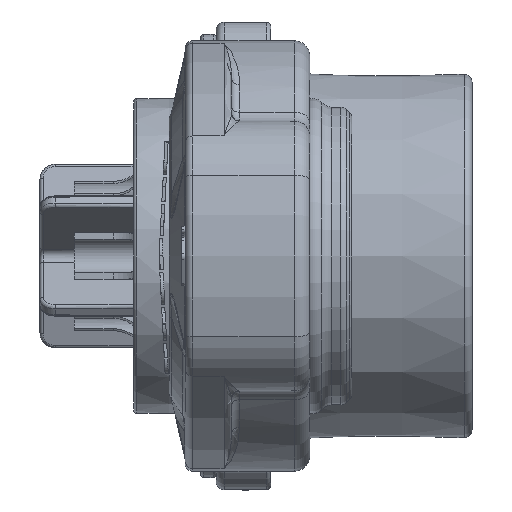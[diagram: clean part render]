
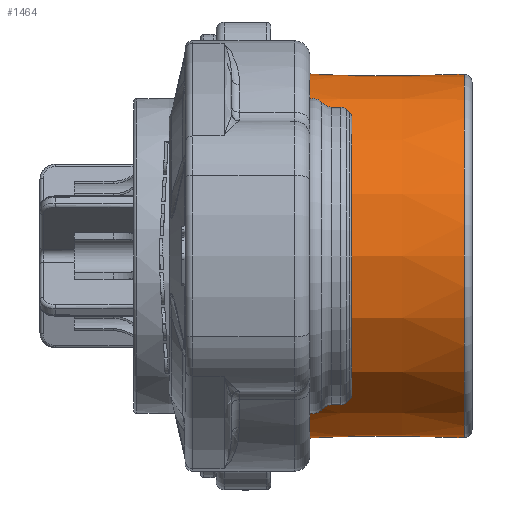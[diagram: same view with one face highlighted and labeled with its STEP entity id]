
A CAD part, front view. The second image highlights one B-rep face of the part: STEP entity #1464.
In plain terms, the highlighted conical face has half-angle 0.5 degrees and reference radius 11.65 mm.
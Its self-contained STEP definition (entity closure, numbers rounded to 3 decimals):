
#114 = VERTEX_POINT ( 'NONE', #26002 ) ;
#1464 = ADVANCED_FACE ( 'NONE', ( #56150 ), #37793, .T. ) ;
#3519 = EDGE_LOOP ( 'NONE', ( #25357, #16104, #9352, #6814 ) ) ;
#6814 = ORIENTED_EDGE ( 'NONE', *, *, #29945, .T. ) ;
#6815 = AXIS2_PLACEMENT_3D ( 'NONE', #15869, #30243, #34672 ) ;
#8466 = CARTESIAN_POINT ( 'NONE',  ( -8.135, 8.767, 7.78 ) ) ;
#9352 = ORIENTED_EDGE ( 'NONE', *, *, #20490, .T. ) ;
#13451 = CARTESIAN_POINT ( 'NONE',  ( -10.269, 8.776, 7.797 ) ) ;
#14601 = B_SPLINE_CURVE_WITH_KNOTS ( 'NONE', 3,
 ( #20731, #44533, #22191, #39258, #57183, #49227, #43953 ),
 .UNSPECIFIED., .F., .F.,
 ( 4, 3, 4 ),
 ( 0., 0.006, 0.012 ),
 .UNSPECIFIED. ) ;
#15869 = CARTESIAN_POINT ( 'NONE',  ( 0., 0., 0. ) ) ;
#16104 = ORIENTED_EDGE ( 'NONE', *, *, #28788, .T. ) ;
#17560 = CARTESIAN_POINT ( 'NONE',  ( -6., 8.757, 7.762 ) ) ;
#18138 = CARTESIAN_POINT ( 'NONE',  ( -0.496, 8.733, 7.718 ) ) ;
#19469 = DIRECTION ( 'NONE',  ( 0., 0., 1. ) ) ;
#20490 = EDGE_CURVE ( 'NONE', #25236, #38410, #14601, .T. ) ;
#20731 = CARTESIAN_POINT ( 'NONE',  ( -12.404, 8.786, -7.814 ) ) ;
#22191 = CARTESIAN_POINT ( 'NONE',  ( -8.735, 8.77, -7.785 ) ) ;
#23066 = CARTESIAN_POINT ( 'NONE',  ( -0.496, 0., 0. ) ) ;
#23597 = CARTESIAN_POINT ( 'NONE',  ( -12.404, 8.786, -7.814 ) ) ;
#25236 = VERTEX_POINT ( 'NONE', #23597 ) ;
#25357 = ORIENTED_EDGE ( 'NONE', *, *, #29507, .T. ) ;
#26002 = CARTESIAN_POINT ( 'NONE',  ( -0.496, 8.733, 7.718 ) ) ;
#28468 = CARTESIAN_POINT ( 'NONE',  ( -0.496, 8.733, -7.718 ) ) ;
#28788 = EDGE_CURVE ( 'NONE', #30839, #25236, #30471, .T. ) ;
#29507 = EDGE_CURVE ( 'NONE', #114, #30839, #36234, .T. ) ;
#29945 = EDGE_CURVE ( 'NONE', #38410, #114, #42778, .T. ) ;
#30243 = DIRECTION ( 'NONE',  ( -1., 0., 0. ) ) ;
#30471 = CIRCLE ( 'NONE', #35181, 11.758 ) ;
#30793 = CARTESIAN_POINT ( 'NONE',  ( -4.165, 8.749, 7.747 ) ) ;
#30839 = VERTEX_POINT ( 'NONE', #46334 ) ;
#31493 = AXIS2_PLACEMENT_3D ( 'NONE', #23066, #45425, #32780 ) ;
#31966 = CARTESIAN_POINT ( 'NONE',  ( -2.33, 8.741, 7.733 ) ) ;
#32780 = DIRECTION ( 'NONE',  ( 0., 0., -1. ) ) ;
#34672 = DIRECTION ( 'NONE',  ( 0., 0., 1. ) ) ;
#35181 = AXIS2_PLACEMENT_3D ( 'NONE', #55905, #46539, #19469 ) ;
#36234 = B_SPLINE_CURVE_WITH_KNOTS ( 'NONE', 3,
 ( #18138, #31966, #30793, #17560, #8466, #13451, #44911 ),
 .UNSPECIFIED., .F., .F.,
 ( 4, 3, 4 ),
 ( 0., 0.006, 0.012 ),
 .UNSPECIFIED. ) ;
#37793 = CONICAL_SURFACE ( 'NONE', #6815, 11.65, 0.009 ) ;
#38410 = VERTEX_POINT ( 'NONE', #28468 ) ;
#39258 = CARTESIAN_POINT ( 'NONE',  ( -6.9, 8.761, -7.77 ) ) ;
#42778 = CIRCLE ( 'NONE', #31493, 11.654 ) ;
#43953 = CARTESIAN_POINT ( 'NONE',  ( -0.496, 8.733, -7.718 ) ) ;
#44533 = CARTESIAN_POINT ( 'NONE',  ( -10.57, 8.778, -7.8 ) ) ;
#44911 = CARTESIAN_POINT ( 'NONE',  ( -12.404, 8.786, 7.814 ) ) ;
#45425 = DIRECTION ( 'NONE',  ( -1., 0., 0. ) ) ;
#46334 = CARTESIAN_POINT ( 'NONE',  ( -12.404, 8.786, 7.814 ) ) ;
#46539 = DIRECTION ( 'NONE',  ( 1., 0., 0. ) ) ;
#49227 = CARTESIAN_POINT ( 'NONE',  ( -2.631, 8.742, -7.735 ) ) ;
#55905 = CARTESIAN_POINT ( 'NONE',  ( -12.404, 0., 0. ) ) ;
#56150 = FACE_OUTER_BOUND ( 'NONE', #3519, .T. ) ;
#57183 = CARTESIAN_POINT ( 'NONE',  ( -4.765, 8.752, -7.752 ) ) ;
